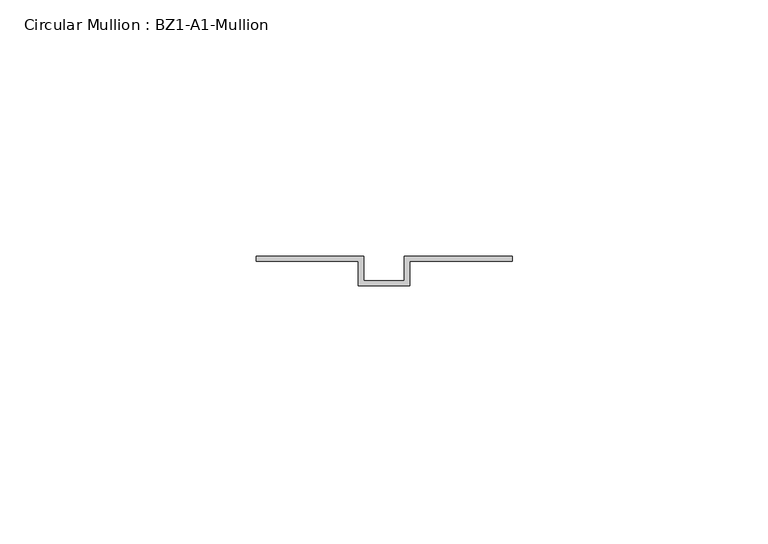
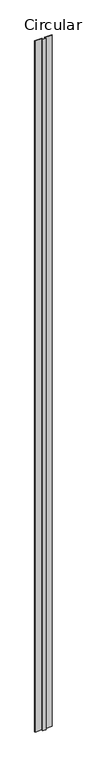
"""IFC4 building model written with IfcOpenShell, lengths in millimetres: member geometry, Circular Mullion : BZ1-A1-Mullion."""

from ifc_helpers import new_model, si_unit, frame, origin, place, context, project, spatial, polyline, outline, extrude, source, transform, mapped, element, save


def circular_mullion_bz1_a1_mullion_96b2a463(model_context):
    return source(origin(), model_context, "Body", "SweptSolid", [
        extrude(outline(polyline([(-25.0, 11.0), (-4.0, 11.0), (-4.0, 6.2), (4.0, 6.2), (4.0, 11.0), (25.0, 11.0), (25.0, 10.0), (5.0, 10.0), (5.0, 5.2), (-5.0, 5.2), (-5.0, 10.0), (-25.0, 10.0), (-25.0, 11.0)])), frame((0.0, 0.0, -2124.0), z_axis=(0.0, 0.0, 1.0), x_axis=(1.0, 0.0, 0.0)), (0.0, 0.0, 1.0), 2124.0),
    ])


if __name__ == "__main__":
    model = new_model("IFC4")
    model_context = context("Model", 3, world=origin())
    ifc_project = project(units=[si_unit("LENGTHUNIT", "METRE", prefix="MILLI")], contexts=[model_context])
    site = spatial("IfcSite", under=ifc_project)
    building = spatial("IfcBuilding", under=site)
    placement = place(None, origin())
    circular_mullion_bz1_a1_mullion_shape = circular_mullion_bz1_a1_mullion_96b2a463(model_context)
    element("IfcMember", 1, ObjectType="Circular Mullion : BZ1-A1-Mullion", at=placement, inside=building, context=model_context, shape_type="MappedRepresentation", body=[
        mapped(circular_mullion_bz1_a1_mullion_shape, transform((0.0, 0.0, 0.0), x_axis=(1.0, 0.0, 0.0), y_axis=(0.0, 1.0, 0.0), z_axis=(0.0, 0.0, 1.0))),
    ])
    save(model, "model.ifc")
